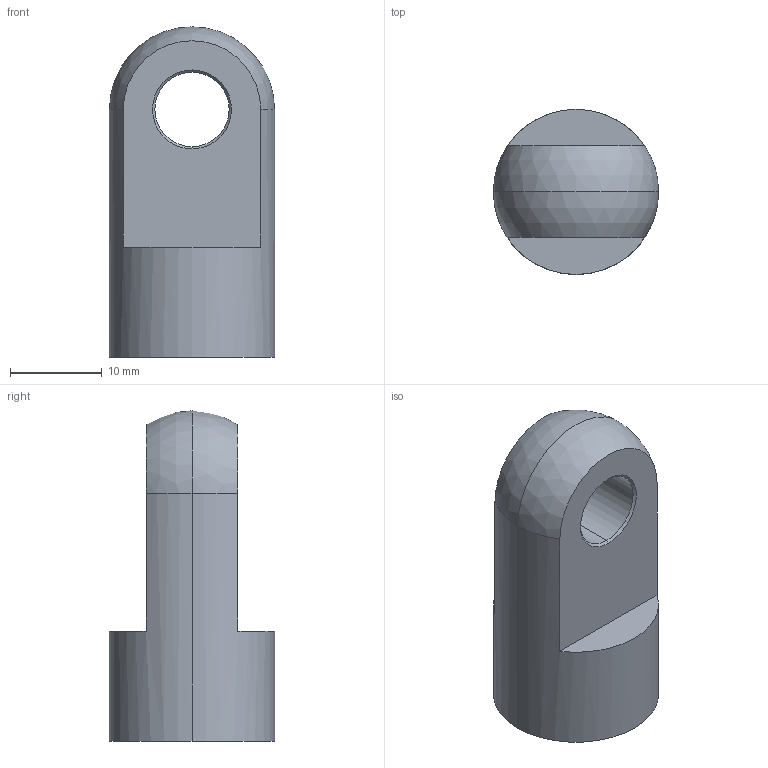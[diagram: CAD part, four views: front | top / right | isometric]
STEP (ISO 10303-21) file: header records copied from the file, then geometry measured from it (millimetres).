
FILE_DESCRIPTION (( 'STEP AP214' ), '1' );
FILE_NAME ('18.09N2ADT.STEP', '2017-10-23T12:39:09', ( '' ), ( '' ), 'SwSTEP 2.0', 'SolidWorks 2016', '' );
FILE_SCHEMA (( 'AUTOMOTIVE_DESIGN' ));
Length unit declared in the file: millimetre
Products named in the file (1): 18.09N2ADT
Bounding box: 18 x 18 x 36 mm (x, y, z)
Volume: 5499.3 mm3; surface area: 2709.5 mm2
Topology: 1 solids, 1 shells, 21 faces, 48 edges, 28 vertices
Faces by surface type: cone 8, cylinder 6, plane 5, sphere 2
Entity records: 620 total; most frequent: DIRECTION 116, CARTESIAN_POINT 96, ORIENTED_EDGE 92, AXIS2_PLACEMENT_3D 48, EDGE_CURVE 46, VERTEX_POINT 28, CIRCLE 26, EDGE_LOOP 24
